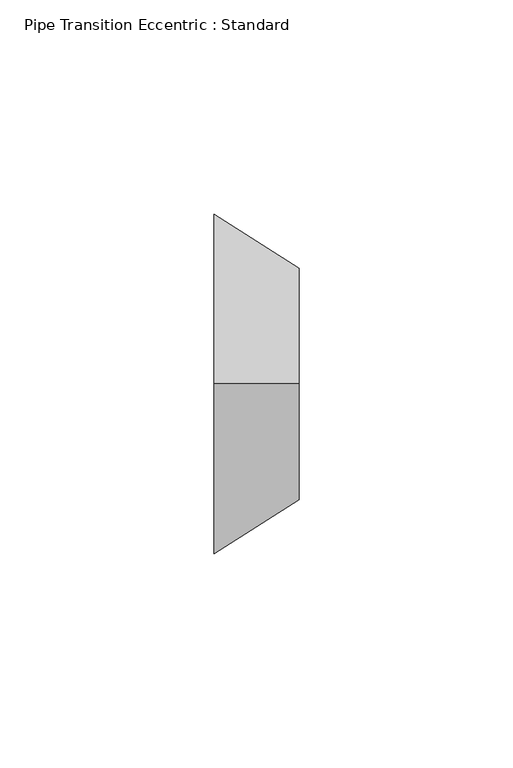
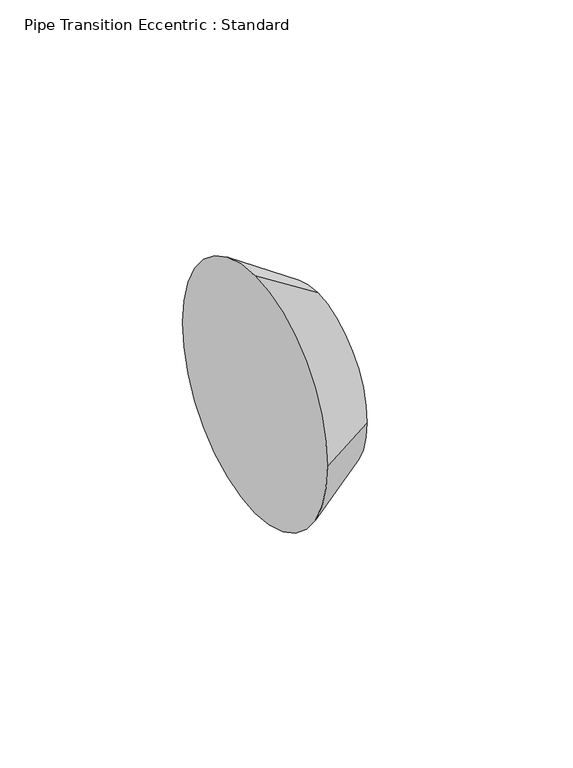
"""IFC4 building model written with IfcOpenShell, lengths in millimetres: pipe fitting geometry, Pipe Transition Eccentric : Standard."""

from ifc_helpers import new_model, si_unit, frame, origin, place, context, project, spatial, polyline, circle_curve, source, transform, mapped, element, save
from ifc_brep_helpers import plane_surface, revolved_surface, advanced_brep


def pipe_transition_eccentric_standard_2aaf0b1f(model_context):
    return source(origin(), model_context, "Body", "AdvancedBrep", [
        advanced_brep(
        [(19.84375, 0.0, 26.9875), (19.84375, -26.9875, 0.0), (19.84375, 0.0, -26.9875), (19.84375, 26.9875, 0.0), (0.0, 0.0, 39.6875), (0.0, 39.6875, 0.0), (0.0, 0.0, -39.6875), (0.0, -39.6875, 0.0)],
        [
            (0, 1, circle_curve(frame((19.84375, 0.0, 0.0), z_axis=(1.0, 0.0, 0.0), x_axis=(0.0, 0.0, 1.0)), 26.9875)),
            (1, 2, circle_curve(frame((19.84375, 0.0, 0.0), z_axis=(1.0, 0.0, 0.0), x_axis=(0.0, -1.0, 0.0)), 26.9875)),
            (2, 3, circle_curve(frame((19.84375, 0.0, 0.0), z_axis=(1.0, 0.0, 0.0), x_axis=(0.0, 0.0, -1.0)), 26.9875)),
            (3, 0, circle_curve(frame((19.84375, 0.0, 0.0), z_axis=(1.0, 0.0, 0.0), x_axis=(0.0, 1.0, 0.0)), 26.9875)),
            (4, 5, circle_curve(frame((0.0, 0.0, 0.0), z_axis=(-1.0, 0.0, 0.0), x_axis=(0.0, 1.0, 0.0)), 39.6875)),
            (5, 6, circle_curve(frame((0.0, 0.0, 0.0), z_axis=(-1.0, 0.0, 0.0), x_axis=(0.0, 0.0, -1.0)), 39.6875)),
            (6, 7, circle_curve(frame((0.0, 0.0, 0.0), z_axis=(-1.0, 0.0, 0.0), x_axis=(0.0, -1.0, 0.0)), 39.6875)),
            (7, 4, circle_curve(frame((0.0, 0.0, 0.0), z_axis=(-1.0, 0.0, 0.0), x_axis=(0.0, 0.0, 1.0)), 39.6875)),
            (7, 1),
            (0, 4),
            (6, 2),
            (5, 3),
        ],
        [
            plane_surface(frame((19.84375, 0.0, 0.0), z_axis=(1.0, 0.0, 0.0), x_axis=(0.0, -1.0, 0.0))),
            plane_surface(frame((0.0, 0.0, 0.0), z_axis=(-1.0, 0.0, 0.0), x_axis=(0.0, -1.0, 0.0))),
            revolved_surface(polyline([(19.84375, 0.0, 26.98750001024), (0.0, 0.0, 39.6875)]), (62.0117188, 0.0, 0.0), (-1.0, 0.0, 0.0)),
            revolved_surface(polyline([(19.84375, -26.98750001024, 0.0), (0.0, -39.6875, 0.0)]), (62.0117188, 0.0, 0.0), (-1.0, 0.0, 0.0)),
            revolved_surface(polyline([(19.84375, 0.0, -26.98750001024), (0.0, 0.0, -39.6875)]), (62.0117188, 0.0, 0.0), (-1.0, 0.0, 0.0)),
            revolved_surface(polyline([(19.84375, 26.98750001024, 0.0), (0.0, 39.6875, 0.0)]), (62.0117188, 0.0, 0.0), (-1.0, 0.0, 0.0)),
        ],
        [
            (0, [[1, 2, 3, 4]]),
            (1, [[5, 6, 7, 8]]),
            (2, [[-8, 9, -1, 10]]),
            (3, [[-7, 11, -2, -9]]),
            (4, [[-6, 12, -3, -11]]),
            (5, [[-5, -10, -4, -12]]),
        ],
    ),
        advanced_brep(
        [(19.84375, 0.0, 26.9875), (19.84375, -26.9875, 0.0), (19.84375, 0.0, -26.9875), (19.84375, 26.9875, 0.0), (0.0, 0.0, 39.6875), (0.0, 39.6875, 0.0), (0.0, 0.0, -39.6875), (0.0, -39.6875, 0.0)],
        [
            (0, 1, circle_curve(frame((19.84375, 0.0, 0.0), z_axis=(1.0, 0.0, 0.0), x_axis=(0.0, 0.0, 1.0)), 26.9875)),
            (1, 2, circle_curve(frame((19.84375, 0.0, 0.0), z_axis=(1.0, 0.0, 0.0), x_axis=(0.0, -1.0, 0.0)), 26.9875)),
            (2, 3, circle_curve(frame((19.84375, 0.0, 0.0), z_axis=(1.0, 0.0, 0.0), x_axis=(0.0, 0.0, -1.0)), 26.9875)),
            (3, 0, circle_curve(frame((19.84375, 0.0, 0.0), z_axis=(1.0, 0.0, 0.0), x_axis=(0.0, 1.0, 0.0)), 26.9875)),
            (4, 5, circle_curve(frame((0.0, 0.0, 0.0), z_axis=(-1.0, 0.0, 0.0), x_axis=(0.0, 1.0, 0.0)), 39.6875)),
            (5, 6, circle_curve(frame((0.0, 0.0, 0.0), z_axis=(-1.0, 0.0, 0.0), x_axis=(0.0, 0.0, -1.0)), 39.6875)),
            (6, 7, circle_curve(frame((0.0, 0.0, 0.0), z_axis=(-1.0, 0.0, 0.0), x_axis=(0.0, -1.0, 0.0)), 39.6875)),
            (7, 4, circle_curve(frame((0.0, 0.0, 0.0), z_axis=(-1.0, 0.0, 0.0), x_axis=(0.0, 0.0, 1.0)), 39.6875)),
            (7, 1),
            (0, 4),
            (6, 2),
            (5, 3),
        ],
        [
            plane_surface(frame((19.84375, 0.0, 0.0), z_axis=(1.0, 0.0, 0.0), x_axis=(0.0, -1.0, 0.0))),
            plane_surface(frame((0.0, 0.0, 0.0), z_axis=(-1.0, 0.0, 0.0), x_axis=(0.0, -1.0, 0.0))),
            revolved_surface(polyline([(19.84375, 0.0, 26.98750001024), (0.0, 0.0, 39.6875)]), (62.0117188, 0.0, 0.0), (-1.0, 0.0, 0.0)),
            revolved_surface(polyline([(19.84375, -26.98750001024, 0.0), (0.0, -39.6875, 0.0)]), (62.0117188, 0.0, 0.0), (-1.0, 0.0, 0.0)),
            revolved_surface(polyline([(19.84375, 0.0, -26.98749998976), (0.0, 0.0, -39.6875)]), (62.0117187, 0.0, 0.0), (-1.0, 0.0, 0.0)),
            revolved_surface(polyline([(19.84375, 26.98749998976, 0.0), (0.0, 39.6875, 0.0)]), (62.0117187, 0.0, 0.0), (-1.0, 0.0, 0.0)),
        ],
        [
            (0, [[1, 2, 3, 4]]),
            (1, [[5, 6, 7, 8]]),
            (2, [[-8, 9, -1, 10]]),
            (3, [[-7, 11, -2, -9]]),
            (4, [[-6, 12, -3, -11]]),
            (5, [[-5, -10, -4, -12]]),
        ],
    ),
    ])


if __name__ == "__main__":
    model = new_model("IFC4")
    model_context = context("Model", 3, world=origin())
    ifc_project = project(units=[si_unit("LENGTHUNIT", "METRE", prefix="MILLI")], contexts=[model_context])
    site = spatial("IfcSite", under=ifc_project)
    building = spatial("IfcBuilding", under=site)
    placement = place(None, origin())
    pipe_transition_eccentric_standard_shape = pipe_transition_eccentric_standard_2aaf0b1f(model_context)
    element("IfcPipeFitting", 1, ObjectType="Pipe Transition Eccentric : Standard", at=placement, inside=building, context=model_context, shape_type="MappedRepresentation", body=[
        mapped(pipe_transition_eccentric_standard_shape, transform((0.0, 0.0, 0.0), x_axis=(1.0, 0.0, 0.0), y_axis=(0.0, 1.0, 0.0), z_axis=(0.0, 0.0, 1.0))),
    ])
    save(model, "model.ifc")
